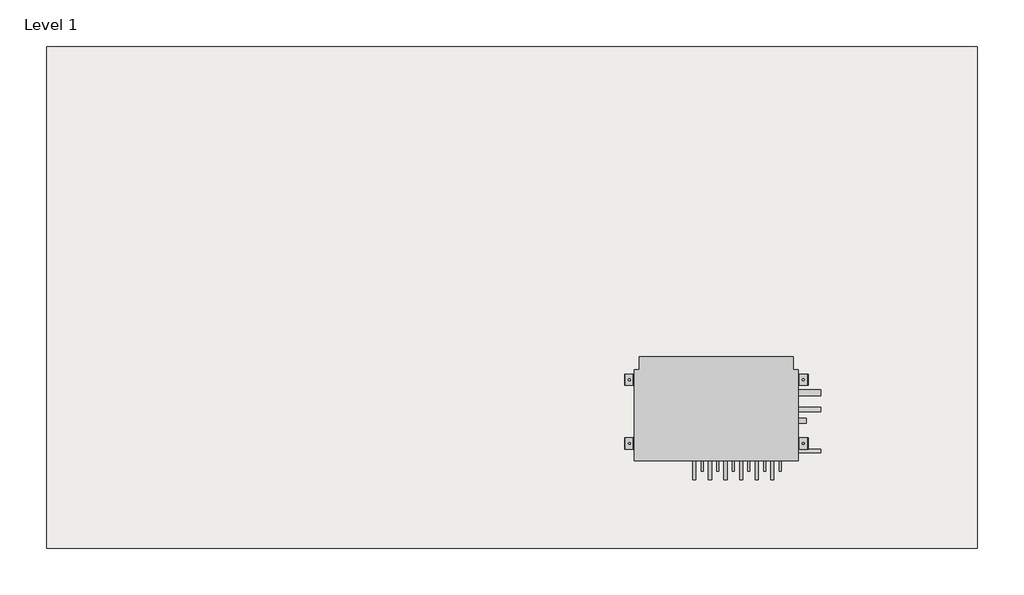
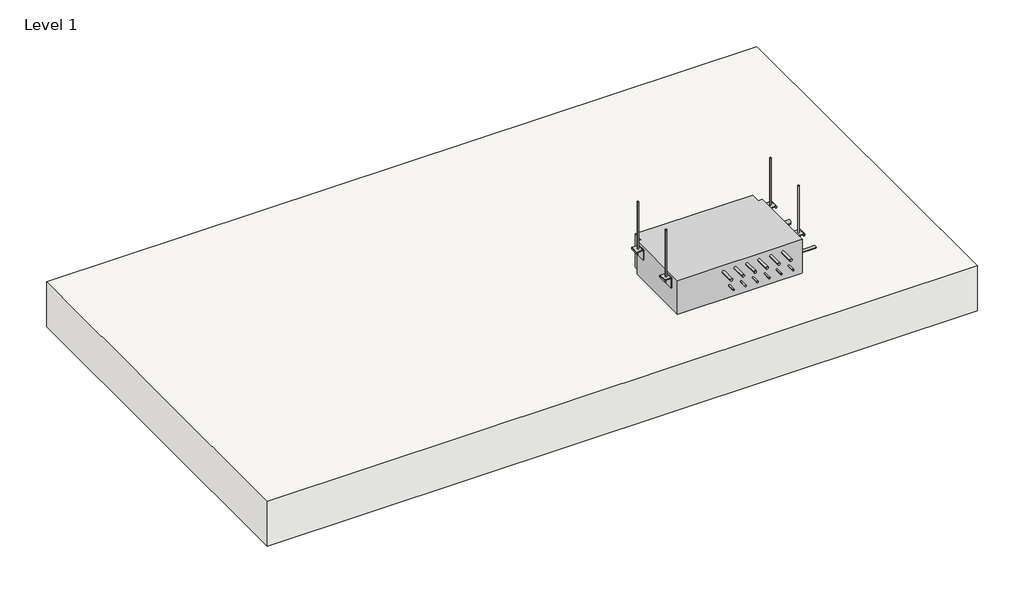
# One storey: 1 proxy, 1 slab.
"""IFC4 building model written with IfcOpenShell, lengths in millimetres."""

from ifc_helpers import new_model, si_unit, frame, origin, place, context, project, spatial, polyline, outline, extrude, transform, mapped, element, save
from components import mechanical_equipment_c1accfc4

model = new_model("IFC4")

# Units and contexts
model_context = context("Model", 3, world=origin())
ifc_project = project(units=[si_unit("LENGTHUNIT", "METRE", prefix="MILLI")], contexts=[model_context])

# Site, building, storey
site = spatial("IfcSite", under=ifc_project)
building = spatial("IfcBuilding", under=site)
storey = spatial("IfcBuildingStorey", under=building, Name="Level 1", Elevation=0.0)

# Proxy
placement = place(None, origin())
mechanical_equipment_shape = mechanical_equipment_c1accfc4(model_context)
element("IfcBuildingElementProxy", 1, Name="Lennox-VRF-Mode_Selection_Box-V8MSBB04-2P_Series : V8MSBB04", ObjectType="Lennox-VRF-Mode_Selection_Box-V8MSBB04-2P_Series : V8MSBB04", at=placement, inside=storey, context=model_context, shape_type="MappedRepresentation", body=[
    mapped(mechanical_equipment_shape, transform((4494.6811765, 345.7378804, 0.0), x_axis=(1.0, 0.0, 0.0), y_axis=(0.0, 1.0, 0.0), z_axis=(0.0, 0.0, 1.0))),
])

# Slab
element("IfcSlab", 2, ObjectType="Generic - 12\"", at=placement, inside=storey, context=model_context, shape_type="SweptSolid", body=[
    extrude(outline(polyline([(5770.1973575, 2115.5766815), (5770.1973575, -333.5794355), (1223.5973575, -333.5794355), (1223.5973575, 2115.5766815), (5770.1973575, 2115.5766815)])), frame((0.0, 0.0, -304.8), z_axis=(0.0, 0.0, 1.0), x_axis=(1.0, 0.0, 0.0)), (0.0, 0.0, 1.0), 304.8),
])

save(model, "model.ifc")
